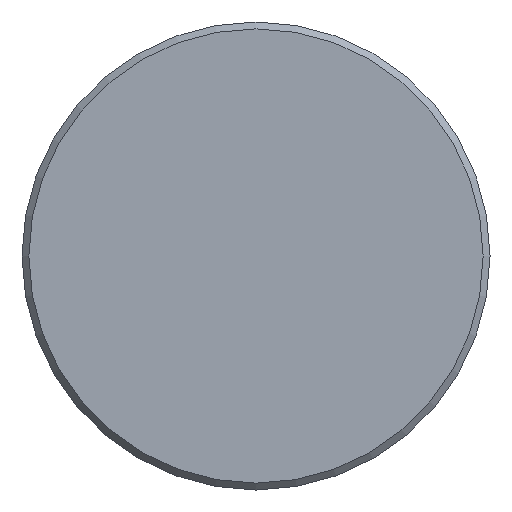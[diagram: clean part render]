
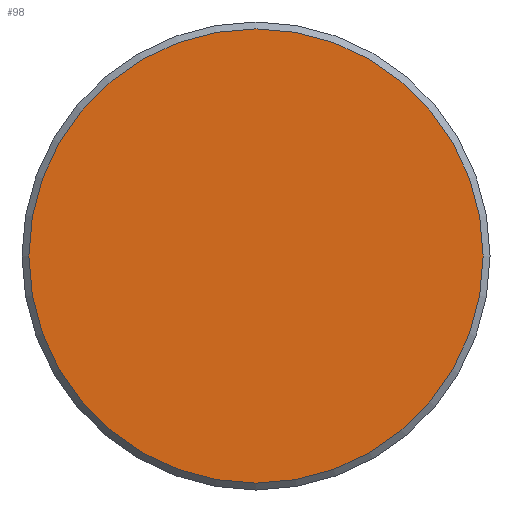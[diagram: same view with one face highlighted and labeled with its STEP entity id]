
A CAD part, front view. The second image highlights one B-rep face of the part: STEP entity #98.
In plain terms, the highlighted planar face has unit normal (0, -1, 0).
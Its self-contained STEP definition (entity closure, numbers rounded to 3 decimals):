
#16=PLANE('',#124);
#24=FACE_OUTER_BOUND('',#31,.T.);
#31=EDGE_LOOP('',(#84));
#47=CIRCLE('',#120,16.5);
#54=VERTEX_POINT('',#172);
#62=EDGE_CURVE('',#54,#54,#47,.T.);
#84=ORIENTED_EDGE('',*,*,#62,.F.);
#98=ADVANCED_FACE('',(#24),#16,.F.);
#120=AXIS2_PLACEMENT_3D('',#173,#142,#143);
#124=AXIS2_PLACEMENT_3D('',#181,#152,#153);
#142=DIRECTION('center_axis',(0.,1.,0.));
#143=DIRECTION('ref_axis',(-1.,0.,0.));
#152=DIRECTION('center_axis',(0.,1.,0.));
#153=DIRECTION('ref_axis',(-1.,0.,0.));
#172=CARTESIAN_POINT('',(16.5,-100.,0.));
#173=CARTESIAN_POINT('Origin',(0.,-100.,0.));
#181=CARTESIAN_POINT('Origin',(0.,-100.,0.));
